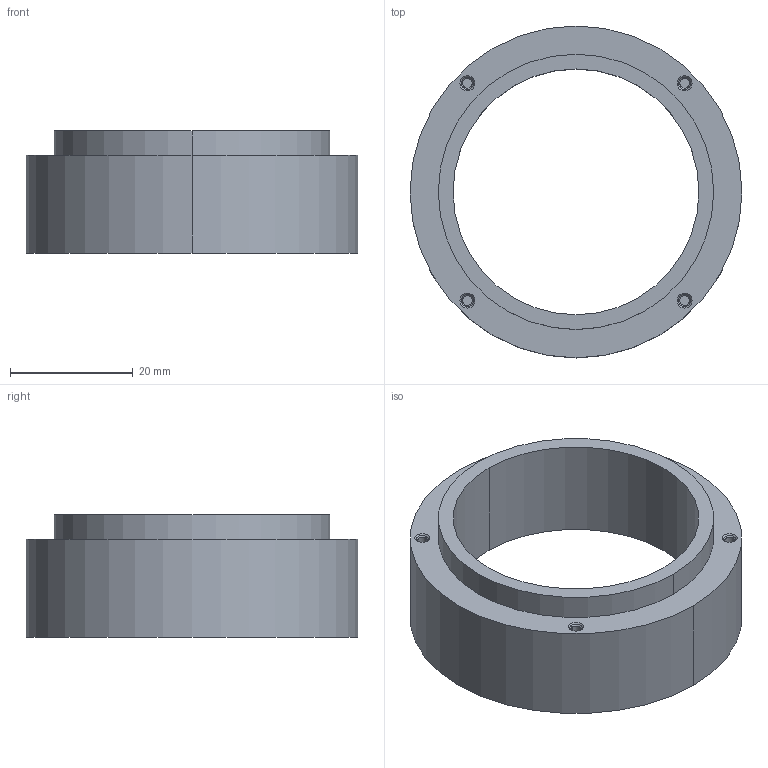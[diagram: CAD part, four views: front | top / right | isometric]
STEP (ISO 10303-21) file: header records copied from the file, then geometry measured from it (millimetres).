
FILE_DESCRIPTION(/* description */ ('VariCAD 2008 3.04 AP-203'),/* implementation_level */ '2;1');
FILE_NAME(/* name */ '0353-18-11',/* time_stamp */ '2009-04-25T10:35:33-06:00',/* author */ (''),/* organization */ (''),/* preprocessor_version */ 'ST-DEVELOPER v12',/* originating_system */ 'VariCAD 2008 3.04; kernel version (20080715)',/* authorisation */ '');
FILE_SCHEMA (('CONFIG_CONTROL_DESIGN'));
Length unit declared in the file: millimetre
Products named in the file (1): Part
Bounding box: 54 x 54 x 19.89 mm (x, y, z)
Volume: 15931.9 mm3; surface area: 7978.4 mm2
Topology: 5 solids, 5 shells, 70 faces, 140 edges, 84 vertices
Faces by surface type: cylinder 38, cone 18, plane 14
Entity records: 1906 total; most frequent: DIRECTION 376, CARTESIAN_POINT 300, ORIENTED_EDGE 280, AXIS2_PLACEMENT_3D 160, EDGE_CURVE 140, EDGE_LOOP 84, CIRCLE 84, VERTEX_POINT 84
